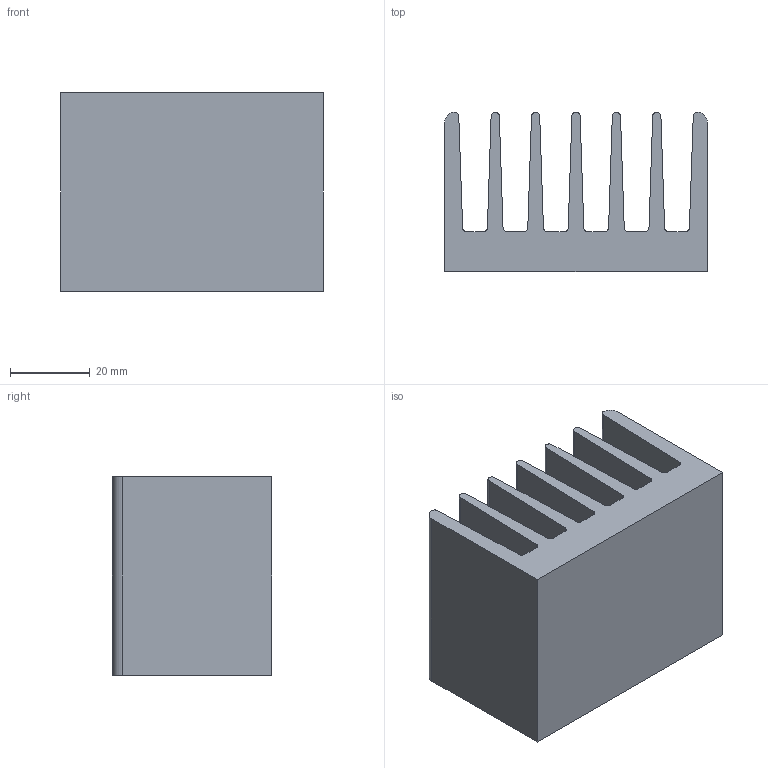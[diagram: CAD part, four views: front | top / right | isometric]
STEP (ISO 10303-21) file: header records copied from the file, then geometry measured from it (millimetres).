
FILE_DESCRIPTION (( 'STEP AP203' ), '1' );
FILE_NAME ('PR 168-50.step', '2002-10-21T08:02:12', ( 'Wolfgang Müller' ), ( 'DPS' ), 'SwSTEP 2.0', 'SolidWorks 2002264', '' );
FILE_SCHEMA (( 'CONFIG_CONTROL_DESIGN' ));
Length unit declared in the file: millimetre
Products named in the file (1): PR 168-50
Bounding box: 66 x 40 x 50 mm (x, y, z)
Volume: 67368.2 mm3; surface area: 30111.3 mm2
Topology: 1 solids, 1 shells, 46 faces, 132 edges, 88 vertices
Faces by surface type: plane 25, cylinder 21
Entity records: 1595 total; most frequent: DIRECTION 268, CARTESIAN_POINT 267, ORIENTED_EDGE 264, EDGE_CURVE 132, LINE 90, VECTOR 90, AXIS2_PLACEMENT_3D 89, VERTEX_POINT 88
